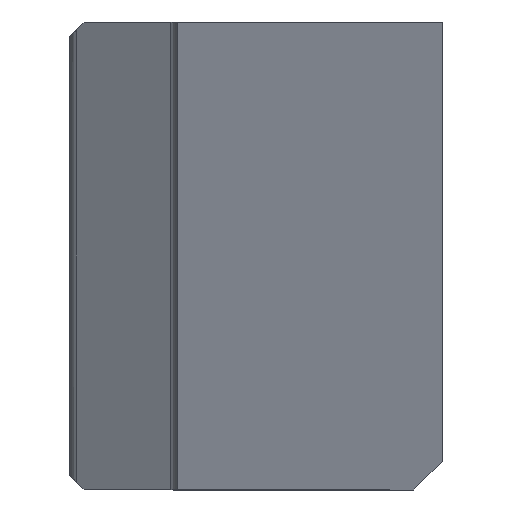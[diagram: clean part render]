
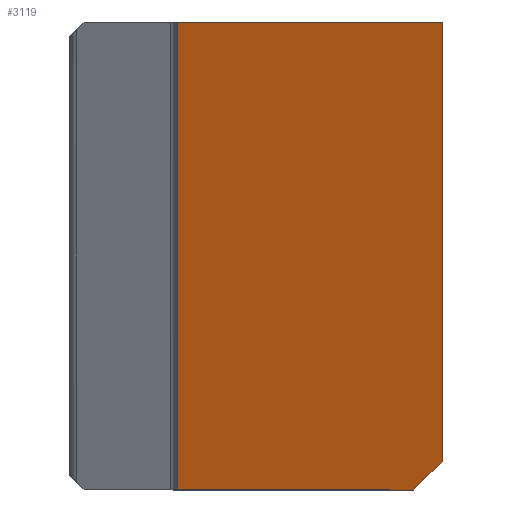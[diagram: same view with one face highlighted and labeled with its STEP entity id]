
A CAD part, left-side view. The second image highlights one B-rep face of the part: STEP entity #3119.
In plain terms, the highlighted planar face has unit normal (-0.943, 0, -0.334).
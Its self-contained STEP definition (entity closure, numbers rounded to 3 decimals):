
#353 = EDGE_CURVE ( 'NONE', #2403, #1999, #3991, .T. ) ;
#466 = DIRECTION ( 'NONE',  ( -0.243, -0.686, 0.686 ) ) ;
#528 = CARTESIAN_POINT ( 'NONE',  ( 0., 39., 0. ) ) ;
#1014 = CARTESIAN_POINT ( 'NONE',  ( 17.379, 39., -49. ) ) ;
#1137 = LINE ( 'NONE', #1014, #11637 ) ;
#1235 = EDGE_CURVE ( 'NONE', #2403, #2455, #1137, .T. ) ;
#1548 = DIRECTION ( 'NONE',  ( -0.334, 0., 0.942 ) ) ;
#1570 = EDGE_CURVE ( 'NONE', #2455, #6466, #7822, .T. ) ;
#1999 = VERTEX_POINT ( 'NONE', #2435 ) ;
#2254 = ORIENTED_EDGE ( 'NONE', *, *, #1570, .F. ) ;
#2403 = VERTEX_POINT ( 'NONE', #7678 ) ;
#2435 = CARTESIAN_POINT ( 'NONE',  ( 16.315, 0., -46. ) ) ;
#2455 = VERTEX_POINT ( 'NONE', #9867 ) ;
#2504 = DIRECTION ( 'NONE',  ( -0.334, 0., 0.942 ) ) ;
#2794 = EDGE_CURVE ( 'NONE', #6466, #9959, #9435, .T. ) ;
#2844 = DIRECTION ( 'NONE',  ( 0., 1., 0. ) ) ;
#3119 = ADVANCED_FACE ( 'NONE', ( #5185 ), #11428, .T. ) ;
#3991 = LINE ( 'NONE', #5809, #5034 ) ;
#4132 = CARTESIAN_POINT ( 'NONE',  ( 0., 27.75, 0. ) ) ;
#4216 = AXIS2_PLACEMENT_3D ( 'NONE', #10580, #8762, #1548 ) ;
#5003 = VECTOR ( 'NONE', #9502, 1000. ) ;
#5034 = VECTOR ( 'NONE', #466, 1000. ) ;
#5185 = FACE_OUTER_BOUND ( 'NONE', #7488, .T. ) ;
#5255 = CARTESIAN_POINT ( 'NONE',  ( 0., 27.75, 0. ) ) ;
#5668 = EDGE_CURVE ( 'NONE', #9959, #1999, #10729, .T. ) ;
#5809 = CARTESIAN_POINT ( 'NONE',  ( 7.675, -24.361, -21.639 ) ) ;
#6234 = ORIENTED_EDGE ( 'NONE', *, *, #5668, .F. ) ;
#6453 = ORIENTED_EDGE ( 'NONE', *, *, #1235, .F. ) ;
#6466 = VERTEX_POINT ( 'NONE', #4132 ) ;
#6569 = CARTESIAN_POINT ( 'NONE',  ( 0., 0., 0. ) ) ;
#6652 = ORIENTED_EDGE ( 'NONE', *, *, #353, .T. ) ;
#7488 = EDGE_LOOP ( 'NONE', ( #6453, #6652, #6234, #7989, #2254 ) ) ;
#7678 = CARTESIAN_POINT ( 'NONE',  ( 17.379, 3., -49. ) ) ;
#7822 = LINE ( 'NONE', #5255, #9190 ) ;
#7989 = ORIENTED_EDGE ( 'NONE', *, *, #2794, .F. ) ;
#8333 = VECTOR ( 'NONE', #8786, 1000. ) ;
#8762 = DIRECTION ( 'NONE',  ( -0.942, 0., -0.334 ) ) ;
#8786 = DIRECTION ( 'NONE',  ( 0.334, 0., -0.942 ) ) ;
#9190 = VECTOR ( 'NONE', #2504, 1000. ) ;
#9435 = LINE ( 'NONE', #528, #5003 ) ;
#9502 = DIRECTION ( 'NONE',  ( 0., -1., 0. ) ) ;
#9729 = CARTESIAN_POINT ( 'NONE',  ( 17.379, 0., -49. ) ) ;
#9867 = CARTESIAN_POINT ( 'NONE',  ( 17.379, 27.75, -49. ) ) ;
#9959 = VERTEX_POINT ( 'NONE', #6569 ) ;
#10580 = CARTESIAN_POINT ( 'NONE',  ( 0., 0., 0. ) ) ;
#10729 = LINE ( 'NONE', #9729, #8333 ) ;
#11428 = PLANE ( 'NONE',  #4216 ) ;
#11637 = VECTOR ( 'NONE', #2844, 1000. ) ;
